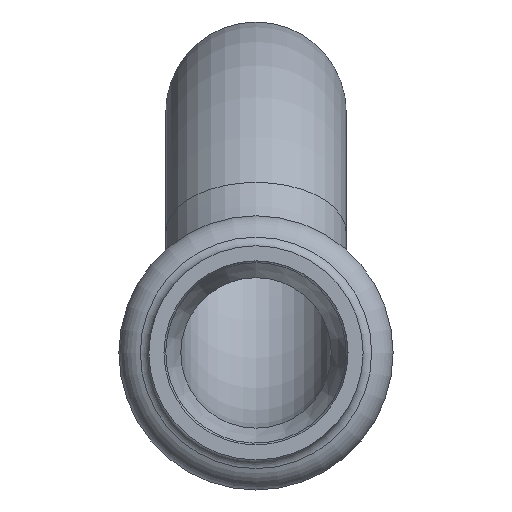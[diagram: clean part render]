
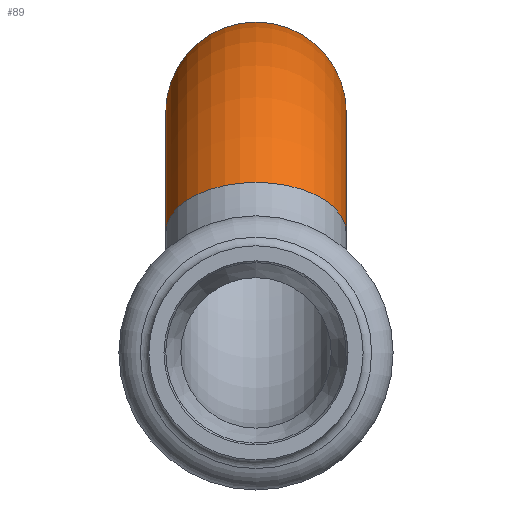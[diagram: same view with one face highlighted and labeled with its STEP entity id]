
A CAD part, front view. The second image highlights one B-rep face of the part: STEP entity #89.
In plain terms, the highlighted toroidal (fillet/blend) face has major radius 22.5 mm and minor radius 7.5 mm.
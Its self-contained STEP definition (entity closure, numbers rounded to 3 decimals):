
#89=ADVANCED_FACE('',(#415,#417),#419,.T.);
#415=FACE_OUTER_BOUND('',#416,.T.);
#416=EDGE_LOOP('',(#520));
#417=FACE_OUTER_BOUND('',#418,.T.);
#418=EDGE_LOOP('',(#521));
#419=TOROIDAL_SURFACE('',#420,22.5,7.5);
#420=AXIS2_PLACEMENT_3D('',#421,#422,#423);
#421=CARTESIAN_POINT('',(0.,69.5,-2.5));
#422=DIRECTION('',(-1.,0.,0.));
#423=DIRECTION('',(0.,-0.831,0.556));
#520=ORIENTED_EDGE('',*,*,#570,.F.);
#521=ORIENTED_EDGE('',*,*,#567,.T.);
#567=EDGE_CURVE('',#655,#655,#656,.T.);
#570=EDGE_CURVE('',#661,#661,#662,.T.);
#655=VERTEX_POINT('',#873);
#656=CIRCLE('',#874,7.5);
#661=VERTEX_POINT('',#888);
#662=CIRCLE('',#889,7.5);
#873=CARTESIAN_POINT('',(-7.5,50.792,10.));
#874=AXIS2_PLACEMENT_3D('',#875,#876,#877);
#875=CARTESIAN_POINT('',(0.,50.792,10.));
#876=DIRECTION('',(0.,0.556,0.831));
#877=DIRECTION('',(-1.,0.,0.));
#888=CARTESIAN_POINT('',(-7.5,88.208,10.));
#889=AXIS2_PLACEMENT_3D('',#890,#891,#892);
#890=CARTESIAN_POINT('',(0.,88.208,10.));
#891=DIRECTION('',(0.,0.556,-0.831));
#892=DIRECTION('',(-1.,0.,0.));
